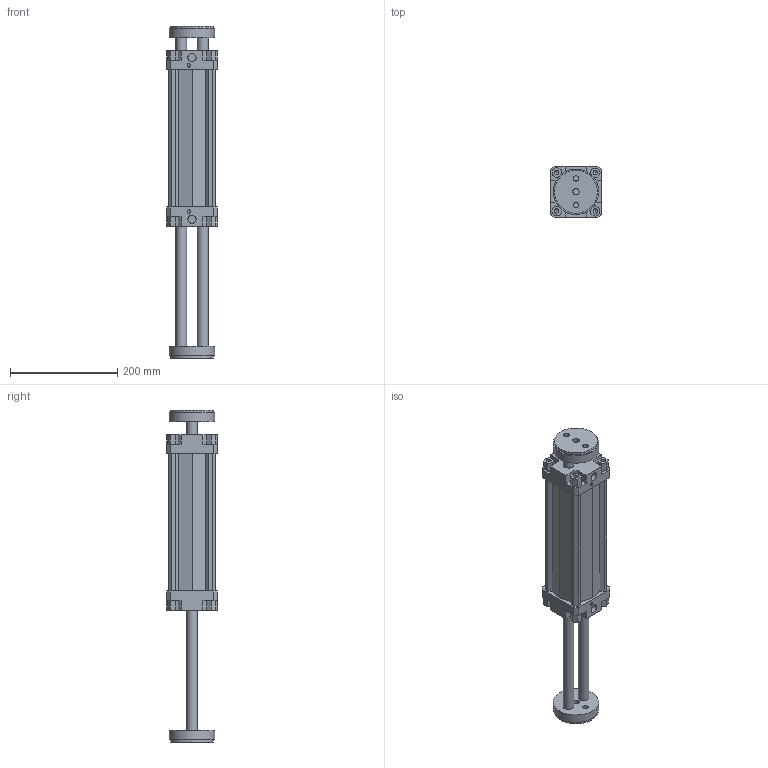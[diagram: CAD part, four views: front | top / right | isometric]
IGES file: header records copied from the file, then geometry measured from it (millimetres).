
Global section: file name: 132#_080_0200_06; native system: Autodesk Inventor 2014; preprocessor: unknown; author: A. Manieri; date: 20161006.162411; units: millimetre
Bounding box: 95 x 95 x 620 mm (x, y, z)
Volume: 1841216.8 mm3; surface area: 361319.9 mm2
Topology: 2 solids, 2 shells, 190 faces, 518 edges, 354 vertices
Faces by surface type: bspline 190
